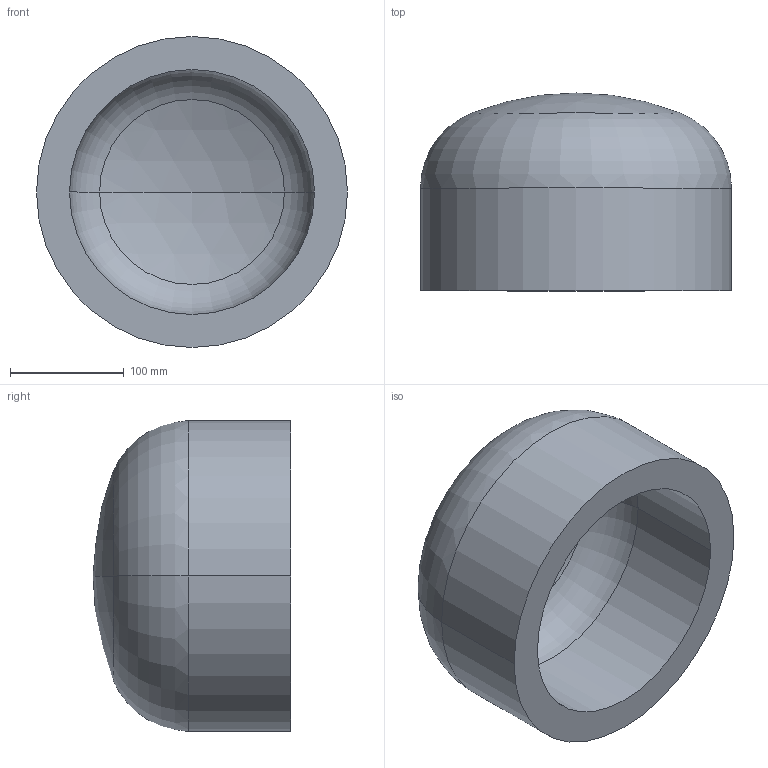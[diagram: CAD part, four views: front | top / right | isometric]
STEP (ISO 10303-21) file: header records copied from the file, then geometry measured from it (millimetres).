
FILE_DESCRIPTION (( 'STEP AP203' ), '1' );
FILE_NAME ('DIN 28013 Korbbogenform_-_Boden DIN 28013 - 273 x 90 - I - s=29.step', '2016-07-01T07:43:47', ( '' ), ( '' ), 'SwSTEP 2.0', 'SolidWorks 2013', '' );
FILE_SCHEMA (( 'CONFIG_CONTROL_DESIGN' ));
Length unit declared in the file: millimetre
Products named in the file (1): DIN 28013 Korbbogenform_-_Boden DIN 28013 - 273 x 90 - I - s=29
Bounding box: 273 x 173.64 x 273 mm (x, y, z)
Volume: 4062943.7 mm3; surface area: 304194.3 mm2
Topology: 1 solids, 1 shells, 13 faces, 24 edges, 14 vertices
Faces by surface type: torus 4, cylinder 4, sphere 4, plane 1
Entity records: 407 total; most frequent: DIRECTION 72, CARTESIAN_POINT 52, ORIENTED_EDGE 48, AXIS2_PLACEMENT_3D 34, EDGE_CURVE 24, CIRCLE 20, VERTEX_POINT 14, EDGE_LOOP 14
